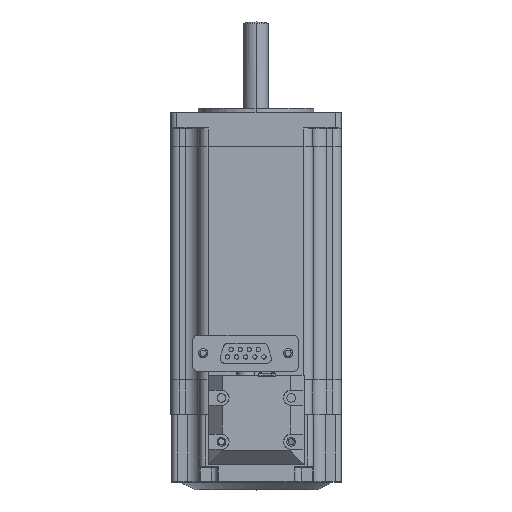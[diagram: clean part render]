
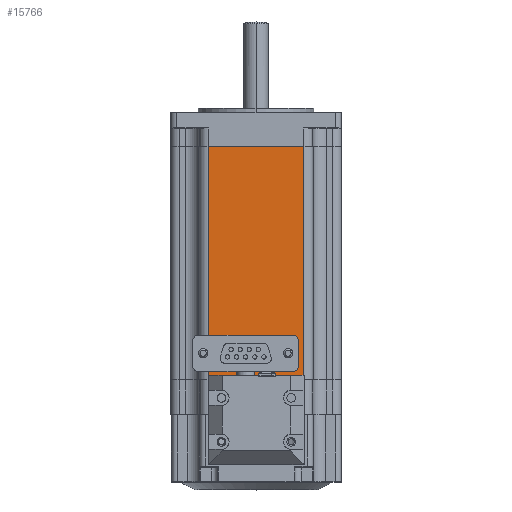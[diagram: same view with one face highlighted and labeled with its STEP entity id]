
A CAD part, top view. The second image highlights one B-rep face of the part: STEP entity #15766.
In plain terms, the highlighted planar face has unit normal (0, 0, 1).
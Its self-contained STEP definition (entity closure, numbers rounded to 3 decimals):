
#608 = CARTESIAN_POINT ( 'NONE',  ( 15.8, 0., 28.2 ) ) ;
#1955 = DIRECTION ( 'NONE',  ( 1., 0., 0. ) ) ;
#2016 = CARTESIAN_POINT ( 'NONE',  ( -15.8, 0., 28.2 ) ) ;
#2867 = VECTOR ( 'NONE', #11329, 1000. ) ;
#3488 = VERTEX_POINT ( 'NONE', #608 ) ;
#3534 = CARTESIAN_POINT ( 'NONE',  ( 18.8, 77., 28.2 ) ) ;
#4559 = ORIENTED_EDGE ( 'NONE', *, *, #8744, .T. ) ;
#5003 = VERTEX_POINT ( 'NONE', #19451 ) ;
#5065 = VECTOR ( 'NONE', #1955, 1000. ) ;
#5223 = CARTESIAN_POINT ( 'NONE',  ( 18.8, 0., 28.2 ) ) ;
#5611 = VECTOR ( 'NONE', #11454, 1000. ) ;
#5906 = CARTESIAN_POINT ( 'NONE',  ( -15.8, 77., 28.2 ) ) ;
#5923 = DIRECTION ( 'NONE',  ( 0., 0., -1. ) ) ;
#6772 = EDGE_LOOP ( 'NONE', ( #4559, #16807, #9966, #7802 ) ) ;
#7478 = LINE ( 'NONE', #5223, #2867 ) ;
#7802 = ORIENTED_EDGE ( 'NONE', *, *, #12033, .T. ) ;
#8376 = EDGE_CURVE ( 'NONE', #5003, #10218, #17435, .T. ) ;
#8744 = EDGE_CURVE ( 'NONE', #12820, #3488, #7478, .T. ) ;
#9666 = CARTESIAN_POINT ( 'NONE',  ( 15.8, 77., 28.2 ) ) ;
#9750 = VECTOR ( 'NONE', #10580, 1000. ) ;
#9966 = ORIENTED_EDGE ( 'NONE', *, *, #8376, .F. ) ;
#10218 = VERTEX_POINT ( 'NONE', #9666 ) ;
#10580 = DIRECTION ( 'NONE',  ( 0., -1., 0. ) ) ;
#10829 = FACE_OUTER_BOUND ( 'NONE', #6772, .T. ) ;
#11329 = DIRECTION ( 'NONE',  ( 1., 0., 0. ) ) ;
#11454 = DIRECTION ( 'NONE',  ( 0., 1., 0. ) ) ;
#12029 = CARTESIAN_POINT ( 'NONE',  ( 18.8, 77., 28.2 ) ) ;
#12033 = EDGE_CURVE ( 'NONE', #5003, #12820, #12896, .T. ) ;
#12375 = EDGE_CURVE ( 'NONE', #3488, #10218, #17992, .T. ) ;
#12820 = VERTEX_POINT ( 'NONE', #2016 ) ;
#12896 = LINE ( 'NONE', #5906, #9750 ) ;
#14518 = CARTESIAN_POINT ( 'NONE',  ( 15.8, 77., 28.2 ) ) ;
#15194 = AXIS2_PLACEMENT_3D ( 'NONE', #12029, #5923, #16780 ) ;
#15230 = PLANE ( 'NONE',  #15194 ) ;
#15766 = ADVANCED_FACE ( 'NONE', ( #10829 ), #15230, .F. ) ;
#16780 = DIRECTION ( 'NONE',  ( -1., 0., 0. ) ) ;
#16807 = ORIENTED_EDGE ( 'NONE', *, *, #12375, .T. ) ;
#17435 = LINE ( 'NONE', #3534, #5065 ) ;
#17992 = LINE ( 'NONE', #14518, #5611 ) ;
#19451 = CARTESIAN_POINT ( 'NONE',  ( -15.8, 77., 28.2 ) ) ;
